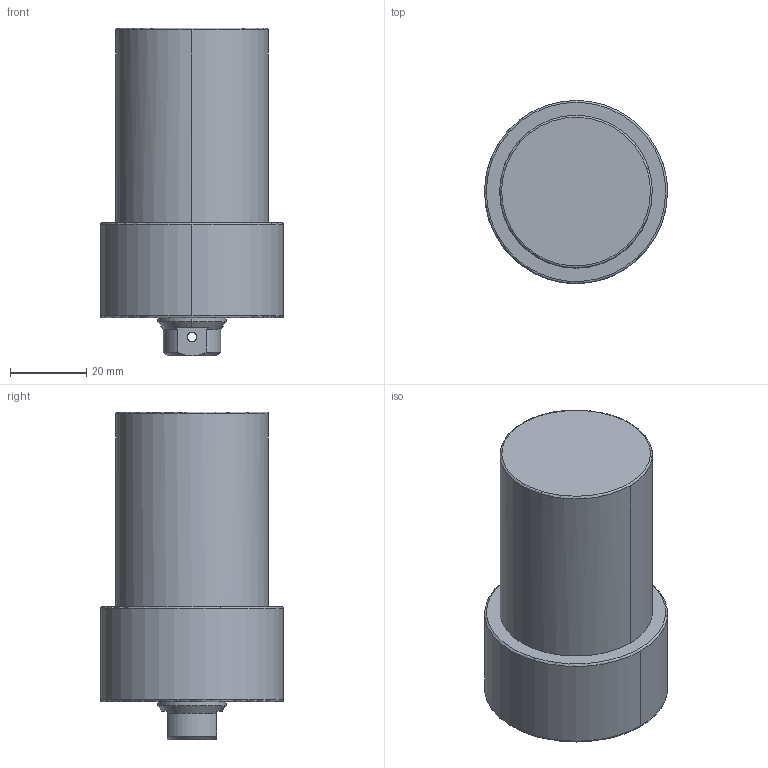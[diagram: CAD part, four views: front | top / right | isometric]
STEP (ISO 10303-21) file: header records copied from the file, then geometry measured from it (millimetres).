
FILE_DESCRIPTION((' '),'2;1');
FILE_NAME( 'TLLU-040GB-040.STEP.stp', '2025-10-24T16:37:12', (' '), ('--- Datakit www.datakit.com---'), ' Datakit CrossCadWare V2024.1 Dec 21 2023', 'Mastercam 2025', ' ');
FILE_SCHEMA(('AUTOMOTIVE_DESIGN { 1 0 10303 214 1 1 1 1 }'));
Length unit declared in the file: millimetre
Products named in the file (1): TLLU-040GB-040
Bounding box: 47.99 x 48 x 86 mm (x, y, z)
Volume: 109309.6 mm3; surface area: 15421.7 mm2
Topology: 1 solids, 1 shells, 66 faces, 200 edges, 133 vertices
Faces by surface type: cylinder 26, cone 24, plane 10, torus 6
Entity records: 3000 total; most frequent: CARTESIAN_POINT 1126, DIRECTION 428, ORIENTED_EDGE 380, EDGE_CURVE 190, AXIS2_PLACEMENT_3D 187, VERTEX_POINT 133, CIRCLE 120, EDGE_LOOP 77
